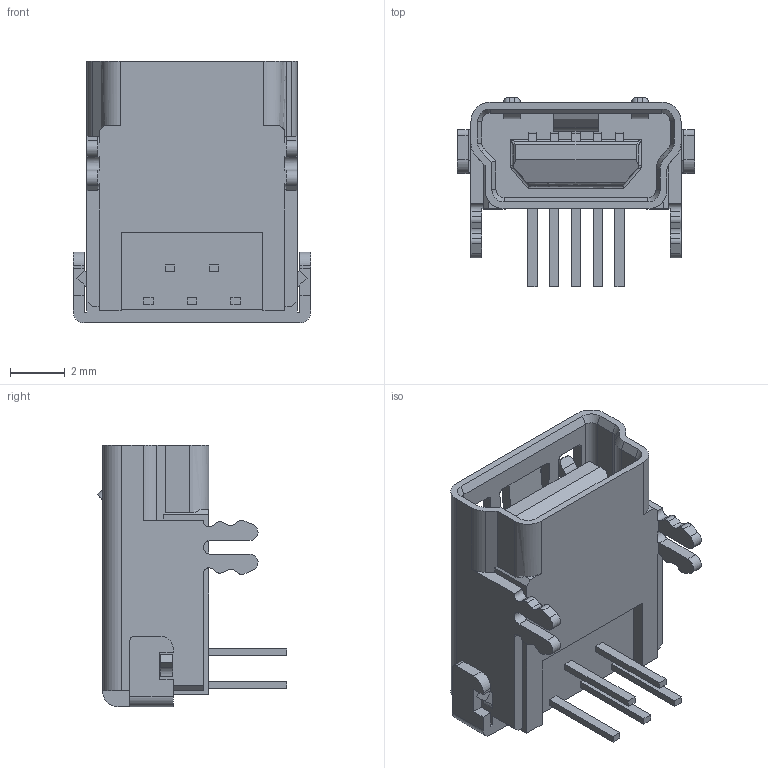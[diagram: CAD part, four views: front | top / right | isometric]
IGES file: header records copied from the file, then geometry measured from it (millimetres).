
Start section:  PTC IGES file: c-1734510-1-c-3d.igs
Global section: file name: c-1734510-1-c-3d.igs; native system: Creo Parametric by PTC Inc.; preprocessor: 2015200; author: workeradm; organization: Unknown; units: millimetre
Bounding box: 8.7 x 6.94 x 9.6 mm (x, y, z)
Surface area: 489.9 mm2 (no closed solid volume)
Topology: 0 solids, 0 shells, 301 faces, 1650 edges, 1648 vertices
Faces by surface type: bspline 207, revolution 94
